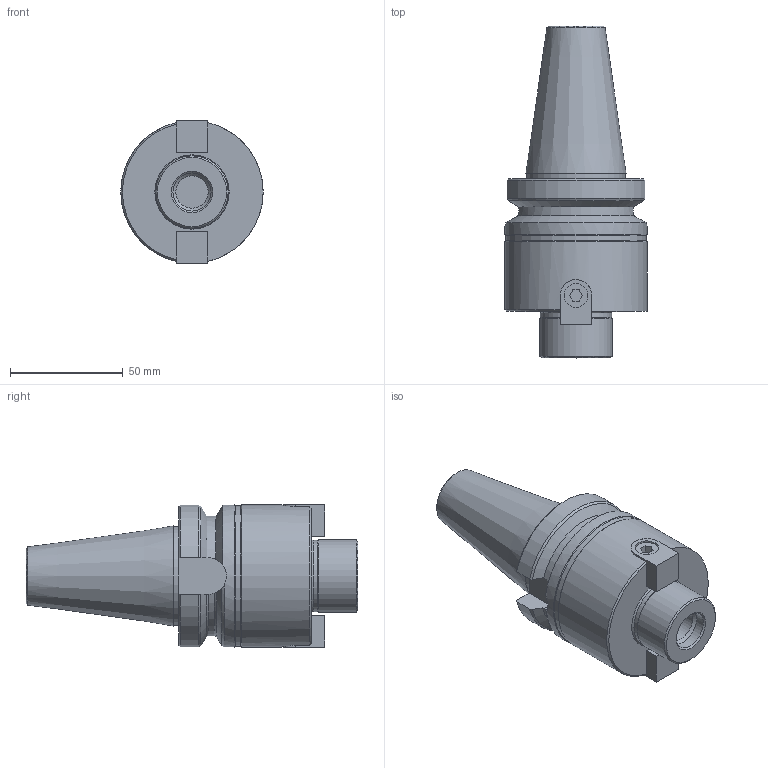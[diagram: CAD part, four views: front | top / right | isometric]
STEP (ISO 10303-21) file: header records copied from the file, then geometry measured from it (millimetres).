
FILE_DESCRIPTION(/* description */ (''),/* implementation_level */ '2;1');
FILE_NAME(/* name */ 'Z:\Проектный отдел\Влад\BT40-FMB32-60L\BT40-FMB32-60L.stp',/* time_stamp */ '2023-10-03T17:28:11+03:00',/* author */ ('Бакал Владислав'),/* organization */ (''),/* preprocessor_version */ 'ST-DEVELOPER v18',/* originating_system */ 'Autodesk Inventor 2020',/* authorisation */ '');
FILE_SCHEMA (('AUTOMOTIVE_DESIGN { 1 0 10303 214 3 1 1 }'));
Length unit declared in the file: millimetre
Products named in the file (1): BT40-FMB32-60L
Bounding box: 63 x 147 x 63 mm (x, y, z)
Volume: 241667.9 mm3; surface area: 35296.2 mm2
Topology: 3 solids, 3 shells, 92 faces, 240 edges, 163 vertices
Faces by surface type: plane 47, cone 23, cylinder 22
Full cylindrical faces by diameter (mm): 10.4 x2, 14.3 x2, 16.9 x2, 31.5 x1, 32 x1, 43.8 x1, 62.4 x1, 63 x2
Entity records: 2983 total; most frequent: CARTESIAN_POINT 638, ORIENTED_EDGE 480, DIRECTION 471, EDGE_CURVE 240, AXIS2_PLACEMENT_3D 176, VERTEX_POINT 163, LINE 119, VECTOR 119
